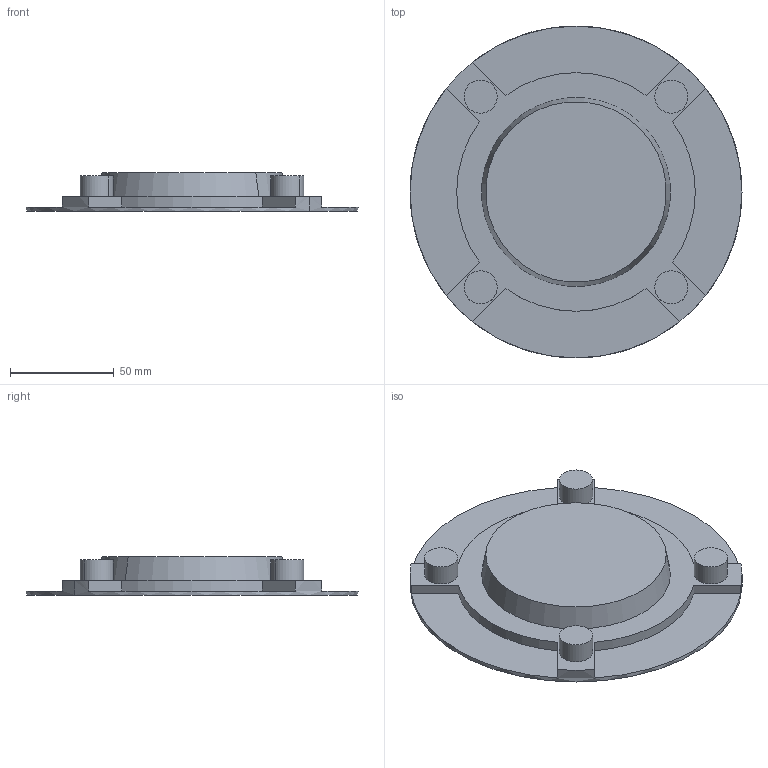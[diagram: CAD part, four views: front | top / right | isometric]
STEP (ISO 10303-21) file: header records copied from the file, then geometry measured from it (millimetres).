
FILE_DESCRIPTION(/* description */ (''),/* implementation_level */ '2;1');
FILE_NAME(/* name */ '7_COPRIMOZZO NMRV-P090',/* time_stamp */ '2025-10-09T15:27:29+02:00',/* author */ (''),/* organization */ (''),/* preprocessor_version */ 'ST-DEVELOPER v19.2',/* originating_system */ 'Rhino 8.23',/* authorisation */ '');
FILE_SCHEMA (('CONFIG_CONTROL_DESIGN'));
Length unit declared in the file: millimetre
Products named in the file (2): Document; Corona 90-p
Bounding box: 160 x 160 x 18.5 mm (x, y, z)
Volume: 180065.7 mm3; surface area: 48645.6 mm2
Topology: 1 solids, 1 shells, 35 faces, 84 edges, 56 vertices
Faces by surface type: plane 19, cylinder 14, bspline 2
Entity records: 1368 total; most frequent: CARTESIAN_POINT 321, ORIENTED_EDGE 168, DIRECTION 121, EDGE_CURVE 84, AXIS2_PLACEMENT_3D 77, VERTEX_POINT 56, B_SPLINE_CURVE_WITH_KNOTS 44, EDGE_LOOP 40
